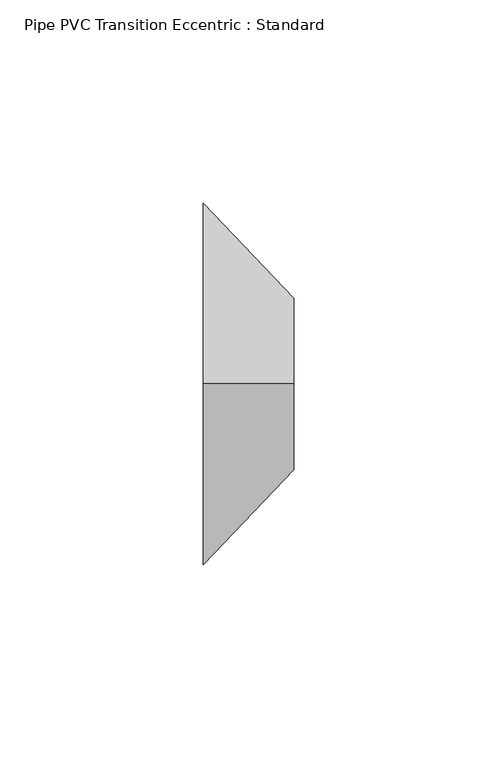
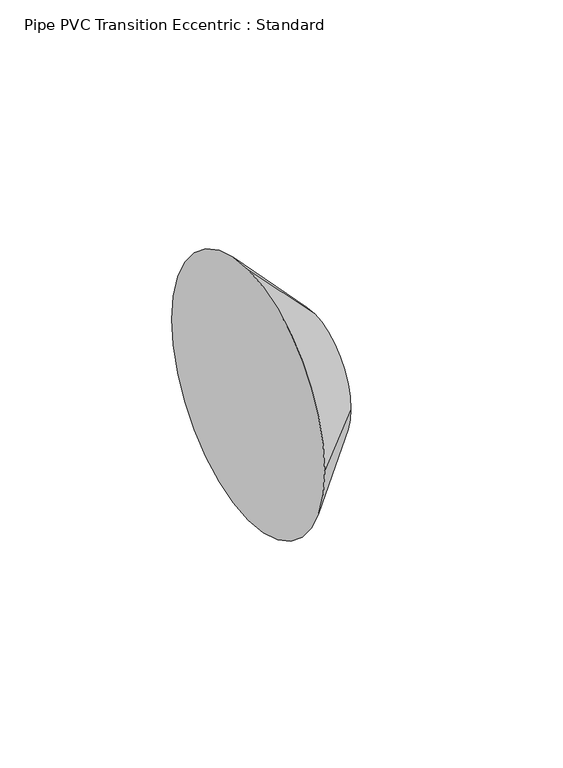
"""IFC4 building model written with IfcOpenShell, lengths in millimetres: pipe fitting geometry, Pipe PVC Transition Eccentric : Standard."""

import ifcopenshell
import ifcopenshell.guid

model = None  # the IFC model being written
_history = None  # IfcOwnerHistory: only IFC2X3 demands one
_inside = {}  # id of a spatial element -> (the spatial element, [elements in it])
_under = {}  # id of a project, library or spatial element -> (it, [spatial elements below it])
_declared = {}  # id of a project -> (the project, [libraries it declares])
_typed = {}  # id of a type object -> (the type object, [elements of that type])
_made_of = {}  # id of a material, layer set ... -> (it, [elements and type objects made of it])


def new_model(schema):
    """Start an empty IFC model of exactly this schema.

    Asked for "IFC4X3", IfcOpenShell would pick the latest addendum, in which some entities
    have other attributes; the version numbers below select the first issue.
    IFC2X3 requires an IfcOwnerHistory on every rooted entity: one is made here for all.
    """
    global model, _history
    if schema == "IFC4X3":
        model = ifcopenshell.file(schema_version=(4, 3, 0, 0))
    else:
        model = ifcopenshell.file(schema=schema)
    _inside.clear()
    _under.clear()
    _declared.clear()
    _typed.clear()
    _made_of.clear()
    _history = None
    if model.schema == "IFC2X3":
        org = make("IfcOrganization", Name="unknown")
        user = make(
            "IfcPersonAndOrganization",
            ThePerson=make("IfcPerson", FamilyName="unknown"),
            TheOrganization=org,
        )
        app = make(
            "IfcApplication",
            ApplicationDeveloper=org,
            Version="unknown",
            ApplicationFullName="unknown",
            ApplicationIdentifier="unknown",
        )
        _history = make(
            "IfcOwnerHistory",
            OwningUser=user,
            OwningApplication=app,
            ChangeAction="ADDED",
            CreationDate=0,
        )
    return model


def make(cls, **values):
    """One entity of the class cls with the attributes given. An attribute that is None is left unset."""
    return model.create_entity(
        cls, **{name: value for name, value in values.items() if value is not None}
    )


def rooted(cls, **values):
    """An entity with a GlobalId (a new one), such as an element, a storey or a relation."""
    return make(cls, GlobalId=ifcopenshell.guid.new(), OwnerHistory=_history, **values)


def si_unit(unit_type, name, prefix=None):
    """IfcSIUnit, for example si_unit("LENGTHUNIT", "METRE", prefix="MILLI")."""
    return make("IfcSIUnit", UnitType=unit_type, Prefix=prefix, Name=name)


def assignment(units):
    """IfcUnitAssignment: the units of a project."""
    return None if units is None else make("IfcUnitAssignment", Units=units)


def point(xyz):
    """IfcCartesianPoint."""
    return None if xyz is None else make("IfcCartesianPoint", Coordinates=xyz)


def direction(xyz):
    """IfcDirection."""
    return None if xyz is None else make("IfcDirection", DirectionRatios=xyz)


def frame(location, z_axis=None, x_axis=None):
    """IfcAxis2Placement3D, a coordinate frame: its origin and axes. An axis left out is left unset."""
    return make(
        "IfcAxis2Placement3D",
        Location=point(location),
        Axis=direction(z_axis),
        RefDirection=direction(x_axis),
    )


def origin():
    """The frame at (0, 0, 0) with its axes left unset."""
    return frame((0.0, 0.0, 0.0))


def place(relative_to, where):
    """IfcLocalPlacement: puts the frame where relative to a parent placement (None: the world)."""
    return make(
        "IfcLocalPlacement", PlacementRelTo=relative_to, RelativePlacement=where
    )


def context(
    kind, dimensions, precision=None, world=None, true_north=None, identifier=None
):
    """IfcGeometricRepresentationContext, for example the 3D "Model" context."""
    return make(
        "IfcGeometricRepresentationContext",
        ContextIdentifier=identifier,
        ContextType=kind,
        CoordinateSpaceDimension=dimensions,
        Precision=precision,
        WorldCoordinateSystem=world,
        TrueNorth=true_north,
    )


def project(units=None, contexts=None):
    """IfcProject with its units and contexts."""
    return rooted(
        "IfcProject",
        Name="project",
        RepresentationContexts=contexts,
        UnitsInContext=assignment(units),
    )


def spatial(cls, under=None, at=None, **own):
    """A site, building, storey or space (cls), placed at a placement, below another one or the project."""
    s = rooted(cls, ObjectPlacement=at, **own)
    if under is not None:
        _under.setdefault(under.id(), (under, []))[1].append(s)
    return s


def polyline(points):
    """IfcPolyline through the points."""
    return make("IfcPolyline", Points=[point(p) for p in points])


def circle_curve(where, radius):
    """IfcCircle in the frame where."""
    return make("IfcCircle", Position=where, Radius=radius)


def shape(context_of_items, identifier, shape_type, items):
    """IfcShapeRepresentation: the items that make up one representation, for example the "Body"."""
    return make(
        "IfcShapeRepresentation",
        ContextOfItems=context_of_items,
        RepresentationIdentifier=identifier,
        RepresentationType=shape_type,
        Items=items,
    )


def source(mapping_origin, context_of_items, identifier, shape_type, items):
    """IfcRepresentationMap: a shape defined once, which mapped items show again and again."""
    return make(
        "IfcRepresentationMap",
        MappingOrigin=mapping_origin,
        MappedRepresentation=shape(context_of_items, identifier, shape_type, items),
    )


def transform(
    local_origin,
    x_axis=None,
    y_axis=None,
    z_axis=None,
    scale=None,
    scale2=None,
    scale3=None,
    uniform=True,
):
    """IfcCartesianTransformationOperator3D, or its non-uniform kind. x_axis, y_axis, z_axis: its Axis1, 2, 3."""
    if uniform:
        return make(
            "IfcCartesianTransformationOperator3D",
            Axis1=direction(x_axis),
            Axis2=direction(y_axis),
            LocalOrigin=point(local_origin),
            Scale=scale,
            Axis3=direction(z_axis),
        )
    return make(
        "IfcCartesianTransformationOperator3DnonUniform",
        Axis1=direction(x_axis),
        Axis2=direction(y_axis),
        LocalOrigin=point(local_origin),
        Scale=scale,
        Axis3=direction(z_axis),
        Scale2=scale2,
        Scale3=scale3,
    )


def mapped(mapping_source, mapping_target):
    """IfcMappedItem: shows the shape of a source again, moved by a transform."""
    return make(
        "IfcMappedItem", MappingSource=mapping_source, MappingTarget=mapping_target
    )


def made_of(thing, what):
    """Note that an element or type object is made of a material, layer set ...; save() writes the relation."""
    if what is not None:
        _made_of.setdefault(what.id(), (what, []))[1].append(thing)
    return thing


def element(
    cls,
    number,
    at=None,
    inside=None,
    cuts=None,
    type_object=None,
    material=None,
    context=None,
    identifier="Body",
    shape_type=None,
    held_by="IfcProductDefinitionShape",
    body=None,
    shapes=None,
    **own,
):
    """One element of the class cls, such as IfcWall. Its Tag is "e" and its number.

    at: its placement. inside: the storey or other place that contains it. cuts: it is an
    opening in that element (IfcRelVoidsElement). A single representation is given by context,
    identifier, shape_type and body (its items); several are given by shapes. held_by: the class
    of the entity that holds the representations. save() writes the other relations.
    """
    e = rooted(cls, Tag="e%d" % number, ObjectPlacement=at, **own)
    if body is not None:
        shapes = [shape(context, identifier, shape_type, body)]
    if shapes is not None:
        e.Representation = make(held_by, Representations=shapes)
    if inside is not None:
        _inside.setdefault(inside.id(), (inside, []))[1].append(e)
    if cuts is not None:
        rooted(
            "IfcRelVoidsElement", RelatingBuildingElement=cuts, RelatedOpeningElement=e
        )
    if type_object is not None:
        _typed.setdefault(type_object.id(), (type_object, []))[1].append(e)
    return made_of(e, material)


def aggregate(whole, parts):
    """IfcRelAggregates: a whole, such as a stair, and the parts it consists of."""
    return rooted("IfcRelAggregates", RelatingObject=whole, RelatedObjects=parts)


def save(model, path):
    """Write the relations noted so far, then the file.

    IfcRelAggregates (storeys below a building ...), IfcRelContainedInSpatialStructure (elements
    in a storey), IfcRelDefinesByType, IfcRelAssociatesMaterial and IfcRelDeclares: one each for
    every whole, place, type object, material and project.
    """
    for whole, parts in _under.values():
        aggregate(whole, parts)
    for where, things in _inside.values():
        rooted(
            "IfcRelContainedInSpatialStructure",
            RelatedElements=things,
            RelatingStructure=where,
        )
    for kind, things in _typed.values():
        rooted("IfcRelDefinesByType", RelatedObjects=things, RelatingType=kind)
    for what, things in _made_of.values():
        rooted("IfcRelAssociatesMaterial", RelatedObjects=things, RelatingMaterial=what)
    for by, libraries in _declared.values():
        rooted("IfcRelDeclares", RelatingContext=by, RelatedDefinitions=libraries)
    model.write(path)


def plane_surface(at):
    """IfcPlane: the flat surface through the origin of the frame at, square to its z axis."""
    return make("IfcPlane", Position=at)


def revolved_surface(curve, axis_point, axis_direction):
    """IfcSurfaceOfRevolution: the curve turned about the line through axis_point along axis_direction."""
    return make(
        "IfcSurfaceOfRevolution",
        SweptCurve=make("IfcArbitraryOpenProfileDef", ProfileType="CURVE", Curve=curve),
        AxisPosition=make("IfcAxis1Placement", Location=point(axis_point), Axis=direction(axis_direction)),
    )


def advanced_brep(points, edges, surfaces, faces):
    """IfcAdvancedBrep: a solid bounded by faces that lie on surfaces and meet in shared edges.

    An edge is (start, end): straight between two places in points (the first is 0);
    or (start, end, curve); or (start, end, curve, False) where it runs against its curve.
    A face is (place in surfaces, loops), or (place, loops, False) where it looks against
    its surface's normal. A loop lists edges by number (the first is 1), with a minus sign
    where the edge is run from its end to its start. The first loop is the outer one.
    """
    corners = [point(p) for p in points]
    vertices = [make("IfcVertexPoint", VertexGeometry=c) for c in corners]
    made = []
    for start, end, *more in edges:
        made.append(
            make(
                "IfcEdgeCurve",
                EdgeStart=vertices[start],
                EdgeEnd=vertices[end],
                EdgeGeometry=more[0] if more else make("IfcPolyline", Points=[corners[start], corners[end]]),
                SameSense=more[1] if len(more) > 1 else True,
            )
        )
    hull = []
    for where, loops, *sense in faces:
        bounds = []
        for j, loop in enumerate(loops):
            ring = [make("IfcOrientedEdge", EdgeElement=made[abs(k) - 1], Orientation=k > 0) for k in loop]
            bounds.append(
                make(
                    "IfcFaceOuterBound" if j == 0 else "IfcFaceBound",
                    Bound=make("IfcEdgeLoop", EdgeList=ring),
                    Orientation=True,
                )
            )
        hull.append(make("IfcAdvancedFace", Bounds=bounds, FaceSurface=surfaces[where], SameSense=sense[0] if sense else True))
    return make("IfcAdvancedBrep", Outer=make("IfcClosedShell", CfsFaces=hull))


def pipe_pvc_transition_eccentric_standard_d1b767a5(model_context):
    return source(origin(), model_context, "Body", "AdvancedBrep", [
        advanced_brep(
        [(22.225, 0.0, 21.082), (22.225, -21.082, 0.0), (22.225, 0.0, -21.082), (22.225, 21.082, 0.0), (0.0, 0.0, 44.45), (0.0, 44.45, 0.0), (0.0, 0.0, -44.45), (0.0, -44.45, 0.0)],
        [
            (0, 1, circle_curve(frame((22.225, 0.0, 0.0), z_axis=(1.0, 0.0, 0.0), x_axis=(0.0, 0.0, 1.0)), 21.082)),
            (1, 2, circle_curve(frame((22.225, 0.0, 0.0), z_axis=(1.0, 0.0, 0.0), x_axis=(0.0, -1.0, 0.0)), 21.082)),
            (2, 3, circle_curve(frame((22.225, 0.0, 0.0), z_axis=(1.0, 0.0, 0.0), x_axis=(0.0, 0.0, -1.0)), 21.082)),
            (3, 0, circle_curve(frame((22.225, 0.0, 0.0), z_axis=(1.0, 0.0, 0.0), x_axis=(0.0, 1.0, 0.0)), 21.082)),
            (4, 5, circle_curve(frame((0.0, 0.0, 0.0), z_axis=(-1.0, 0.0, 0.0), x_axis=(0.0, 1.0, 0.0)), 44.45)),
            (5, 6, circle_curve(frame((0.0, 0.0, 0.0), z_axis=(-1.0, 0.0, 0.0), x_axis=(0.0, 0.0, -1.0)), 44.45)),
            (6, 7, circle_curve(frame((0.0, 0.0, 0.0), z_axis=(-1.0, 0.0, 0.0), x_axis=(0.0, -1.0, 0.0)), 44.45)),
            (7, 4, circle_curve(frame((0.0, 0.0, 0.0), z_axis=(-1.0, 0.0, 0.0), x_axis=(0.0, 0.0, 1.0)), 44.45)),
            (7, 1),
            (0, 4),
            (6, 2),
            (5, 3),
        ],
        [
            plane_surface(frame((22.225, 0.0, 0.0), z_axis=(1.0, 0.0, 0.0), x_axis=(0.0, -1.0, 0.0))),
            plane_surface(frame((0.0, 0.0, 0.0), z_axis=(-1.0, 0.0, 0.0), x_axis=(0.0, -1.0, 0.0))),
            revolved_surface(polyline([(22.225, 0.0, 21.081999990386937), (0.0, 0.0, 44.45)]), (42.2758152, 0.0, 0.0), (-1.0, 0.0, 0.0)),
            revolved_surface(polyline([(22.225, -21.081999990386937, 0.0), (0.0, -44.45, 0.0)]), (42.2758152, 0.0, 0.0), (-1.0, 0.0, 0.0)),
            revolved_surface(polyline([(22.225, 0.0, -21.081999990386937), (0.0, 0.0, -44.45)]), (42.2758152, 0.0, 0.0), (-1.0, 0.0, 0.0)),
            revolved_surface(polyline([(22.225, 21.081999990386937, 0.0), (0.0, 44.45, 0.0)]), (42.2758152, 0.0, 0.0), (-1.0, 0.0, 0.0)),
        ],
        [
            (0, [[1, 2, 3, 4]]),
            (1, [[5, 6, 7, 8]]),
            (2, [[-8, 9, -1, 10]]),
            (3, [[-7, 11, -2, -9]]),
            (4, [[-6, 12, -3, -11]]),
            (5, [[-5, -10, -4, -12]]),
        ],
    ),
        advanced_brep(
        [(22.225, 0.0, 21.082), (22.225, -21.082, 0.0), (22.225, 0.0, -21.082), (22.225, 21.082, 0.0), (0.0, 0.0, 44.45), (0.0, 44.45, 0.0), (0.0, 0.0, -44.45), (0.0, -44.45, 0.0)],
        [
            (0, 1, circle_curve(frame((22.225, 0.0, 0.0), z_axis=(1.0, 0.0, 0.0), x_axis=(0.0, 0.0, 1.0)), 21.082)),
            (1, 2, circle_curve(frame((22.225, 0.0, 0.0), z_axis=(1.0, 0.0, 0.0), x_axis=(0.0, -1.0, 0.0)), 21.082)),
            (2, 3, circle_curve(frame((22.225, 0.0, 0.0), z_axis=(1.0, 0.0, 0.0), x_axis=(0.0, 0.0, -1.0)), 21.082)),
            (3, 0, circle_curve(frame((22.225, 0.0, 0.0), z_axis=(1.0, 0.0, 0.0), x_axis=(0.0, 1.0, 0.0)), 21.082)),
            (4, 5, circle_curve(frame((0.0, 0.0, 0.0), z_axis=(-1.0, 0.0, 0.0), x_axis=(0.0, 1.0, 0.0)), 44.45)),
            (5, 6, circle_curve(frame((0.0, 0.0, 0.0), z_axis=(-1.0, 0.0, 0.0), x_axis=(0.0, 0.0, -1.0)), 44.45)),
            (6, 7, circle_curve(frame((0.0, 0.0, 0.0), z_axis=(-1.0, 0.0, 0.0), x_axis=(0.0, -1.0, 0.0)), 44.45)),
            (7, 4, circle_curve(frame((0.0, 0.0, 0.0), z_axis=(-1.0, 0.0, 0.0), x_axis=(0.0, 0.0, 1.0)), 44.45)),
            (7, 1),
            (0, 4),
            (6, 2),
            (5, 3),
        ],
        [
            plane_surface(frame((22.225, 0.0, 0.0), z_axis=(1.0, 0.0, 0.0), x_axis=(0.0, -1.0, 0.0))),
            plane_surface(frame((0.0, 0.0, 0.0), z_axis=(-1.0, 0.0, 0.0), x_axis=(0.0, -1.0, 0.0))),
            revolved_surface(polyline([(22.225, 0.0, 21.081999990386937), (0.0, 0.0, 44.45)]), (42.2758152, 0.0, 0.0), (-1.0, 0.0, 0.0)),
            revolved_surface(polyline([(22.225, -21.081999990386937, 0.0), (0.0, -44.45, 0.0)]), (42.2758152, 0.0, 0.0), (-1.0, 0.0, 0.0)),
            revolved_surface(polyline([(22.225, 0.0, -21.081999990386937), (0.0, 0.0, -44.45)]), (42.2758152, 0.0, 0.0), (-1.0, 0.0, 0.0)),
            revolved_surface(polyline([(22.225, 21.081999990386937, 0.0), (0.0, 44.45, 0.0)]), (42.2758152, 0.0, 0.0), (-1.0, 0.0, 0.0)),
        ],
        [
            (0, [[1, 2, 3, 4]]),
            (1, [[5, 6, 7, 8]]),
            (2, [[-8, 9, -1, 10]]),
            (3, [[-7, 11, -2, -9]]),
            (4, [[-6, 12, -3, -11]]),
            (5, [[-5, -10, -4, -12]]),
        ],
    ),
    ])


if __name__ == "__main__":
    model = new_model("IFC4")
    model_context = context("Model", 3, world=origin())
    ifc_project = project(units=[si_unit("LENGTHUNIT", "METRE", prefix="MILLI")], contexts=[model_context])
    site = spatial("IfcSite", under=ifc_project)
    building = spatial("IfcBuilding", under=site)
    placement = place(None, origin())
    pipe_pvc_transition_eccentric_standard_shape = pipe_pvc_transition_eccentric_standard_d1b767a5(model_context)
    element("IfcPipeFitting", 1, ObjectType="Pipe PVC Transition Eccentric : Standard", at=placement, inside=building, context=model_context, shape_type="MappedRepresentation", body=[
        mapped(pipe_pvc_transition_eccentric_standard_shape, transform((0.0, 0.0, 0.0), x_axis=(1.0, 0.0, 0.0), y_axis=(0.0, 1.0, 0.0), z_axis=(0.0, 0.0, 1.0))),
    ])
    save(model, "model.ifc")
